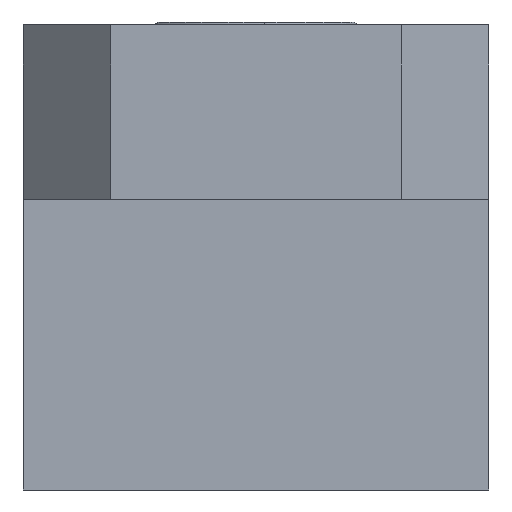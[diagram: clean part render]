
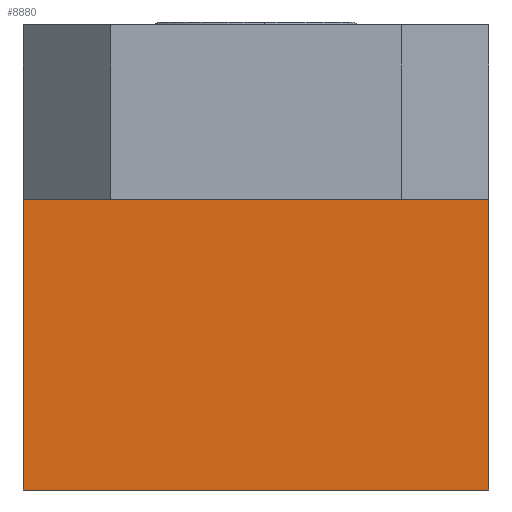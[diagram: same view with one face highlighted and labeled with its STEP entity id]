
A CAD part, left-side view. The second image highlights one B-rep face of the part: STEP entity #8880.
In plain terms, the highlighted planar face has unit normal (-1, 0, 0).
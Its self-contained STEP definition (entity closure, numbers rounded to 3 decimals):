
#147 = DIRECTION ( 'NONE',  ( 0., 0., -1. ) ) ;
#875 = CARTESIAN_POINT ( 'NONE',  ( 6.938, 39.971, 2. ) ) ;
#1711 = DIRECTION ( 'NONE',  ( 0., 1., 0. ) ) ;
#1763 = PLANE ( 'NONE',  #2938 ) ;
#1797 = VECTOR ( 'NONE', #147, 1000. ) ;
#2513 = VERTEX_POINT ( 'NONE', #10058 ) ;
#2542 = CARTESIAN_POINT ( 'NONE',  ( 6.938, 39.971, -3. ) ) ;
#2729 = VERTEX_POINT ( 'NONE', #875 ) ;
#2938 = AXIS2_PLACEMENT_3D ( 'NONE', #10860, #5420, #11784 ) ;
#3032 = EDGE_LOOP ( 'NONE', ( #10013, #6770, #4169, #9126 ) ) ;
#3678 = EDGE_CURVE ( 'NONE', #2513, #9424, #9762, .T. ) ;
#3872 = VERTEX_POINT ( 'NONE', #4829 ) ;
#4169 = ORIENTED_EDGE ( 'NONE', *, *, #3678, .F. ) ;
#4360 = DIRECTION ( 'NONE',  ( 0., 0., 1. ) ) ;
#4487 = LINE ( 'NONE', #11074, #1797 ) ;
#4829 = CARTESIAN_POINT ( 'NONE',  ( 6.938, 23.971, 2. ) ) ;
#5420 = DIRECTION ( 'NONE',  ( 1., 0., 0. ) ) ;
#5941 = LINE ( 'NONE', #2542, #9632 ) ;
#6430 = VECTOR ( 'NONE', #9423, 1000. ) ;
#6770 = ORIENTED_EDGE ( 'NONE', *, *, #8193, .F. ) ;
#8193 = EDGE_CURVE ( 'NONE', #9424, #2729, #5941, .T. ) ;
#8413 = EDGE_CURVE ( 'NONE', #3872, #2513, #4487, .T. ) ;
#8651 = CARTESIAN_POINT ( 'NONE',  ( 6.938, 39.971, -8. ) ) ;
#8880 = ADVANCED_FACE ( 'NONE', ( #10875 ), #1763, .F. ) ;
#9119 = LINE ( 'NONE', #10296, #6430 ) ;
#9126 = ORIENTED_EDGE ( 'NONE', *, *, #8413, .F. ) ;
#9423 = DIRECTION ( 'NONE',  ( 0., -1., 0. ) ) ;
#9424 = VERTEX_POINT ( 'NONE', #8651 ) ;
#9468 = VECTOR ( 'NONE', #1711, 1000. ) ;
#9632 = VECTOR ( 'NONE', #4360, 1000. ) ;
#9762 = LINE ( 'NONE', #10839, #9468 ) ;
#9888 = EDGE_CURVE ( 'NONE', #2729, #3872, #9119, .T. ) ;
#10013 = ORIENTED_EDGE ( 'NONE', *, *, #9888, .F. ) ;
#10058 = CARTESIAN_POINT ( 'NONE',  ( 6.938, 23.971, -8. ) ) ;
#10296 = CARTESIAN_POINT ( 'NONE',  ( 6.938, 31.971, 2. ) ) ;
#10839 = CARTESIAN_POINT ( 'NONE',  ( 6.938, 31.971, -8. ) ) ;
#10860 = CARTESIAN_POINT ( 'NONE',  ( 6.938, 23.971, 2. ) ) ;
#10875 = FACE_OUTER_BOUND ( 'NONE', #3032, .T. ) ;
#11074 = CARTESIAN_POINT ( 'NONE',  ( 6.938, 23.971, -3. ) ) ;
#11784 = DIRECTION ( 'NONE',  ( 0., 0., -1. ) ) ;
